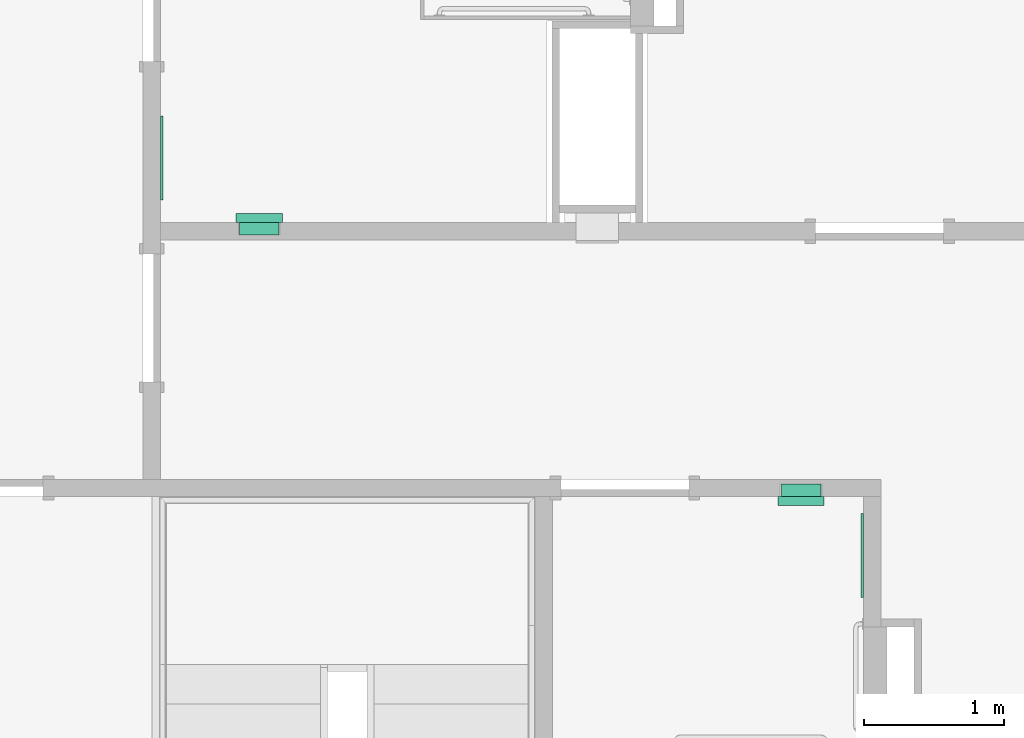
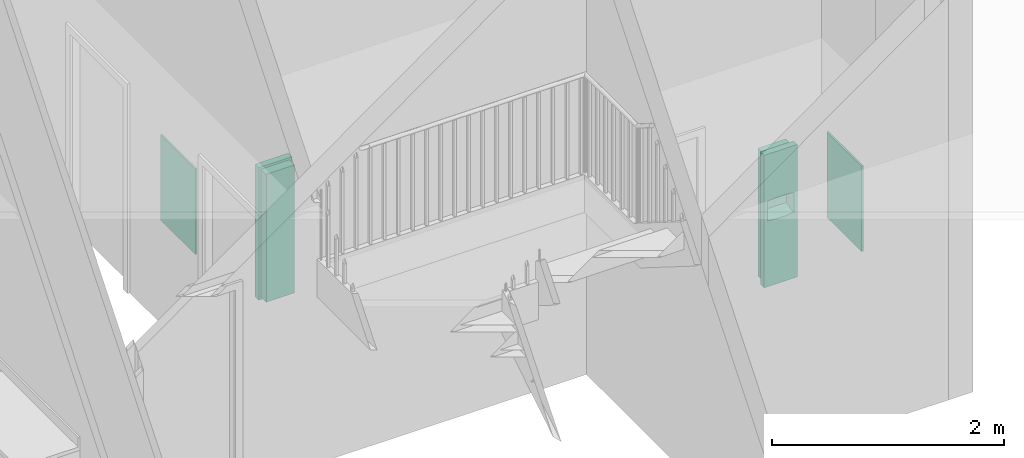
# One storey, part 63 of 82: 4 flow terminals.
"""IFC2X3 building model written with IfcOpenShell, lengths in metres."""

from ifc_helpers import new_model, entity, si_unit, converted_unit, frame, origin, origin_2d_with_axis, place, context, project, spatial, rectangle, extrude, face_set, surface_model, source, transform, mapped, type_object, type_shapes, element, save


model = new_model("IFC2X3")

# Units and contexts
model_context = context("Model", 3, precision=1e-09, world=origin())
plan_context = context("Plan", 3, precision=1e-09, world=origin())
ifc_project = project(units=[si_unit("LENGTHUNIT", "METRE"), si_unit("AREAUNIT", "SQUARE_METRE"), si_unit("VOLUMEUNIT", "CUBIC_METRE"), converted_unit("PLANEANGLEUNIT", "DEGREE", entity("IfcRatioMeasure", 0.01745329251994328), si_unit("PLANEANGLEUNIT", "RADIAN"), dimensions=[0, 0, 0, 0, 0, 0, 0]), si_unit("TIMEUNIT", "SECOND")], contexts=[model_context, plan_context])

# Site, building, storey, space
site_placement = place(None, origin())
site = spatial("IfcSite", under=ifc_project, at=site_placement, Name="Default", CompositionType="ELEMENT")
building_placement = place(site_placement, origin())
building = spatial("IfcBuilding", under=site, at=building_placement, CompositionType="ELEMENT")
storey_placement = place(building_placement, origin())
storey = spatial("IfcBuildingStorey", under=building, at=storey_placement, Name="First Floor", CompositionType="ELEMENT", Elevation=-3.531500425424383e-13)
space_1_placement = place(storey_placement, origin())
space_1 = spatial("IfcSpace", under=storey, at=space_1_placement, Name="1A13", CompositionType="ELEMENT", InteriorOrExteriorSpace="INTERNAL")

# Flow terminal
sanitary_terminal_type_1 = type_object("IfcSanitaryTerminalType", Name="Semi-Recessed", PredefinedType="NOTDEFINED")
shared_shape_1 = source(origin(), model_context, "Body", "SurfaceModel", [
    surface_model("IfcFaceBasedSurfaceModel", [(0.3047999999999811, 1.371600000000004, 0.006350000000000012), (0.02539999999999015, 1.371600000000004, 0.006350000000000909), (0.02539999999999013, 0.02540000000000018, 0.006350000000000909), (0.3047999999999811, 0.02540000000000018, 0.006350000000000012), (0.3047999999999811, 1.371600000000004, 0.0), (0.02539999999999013, 1.371600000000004, 0.0), (0.02539999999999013, 0.02540000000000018, 0.0), (0.3047999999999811, 0.02540000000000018, 0.0), (0.3047999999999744, 0.8683625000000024, 0.0314087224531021), (0.304799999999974, 0.8683625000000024, 0.0), (0.304799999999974, 1.371600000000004, 0.0), (0.3047999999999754, 1.371600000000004, 0.1396999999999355), (0.3047999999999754, 0.9274310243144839, 0.139699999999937), (0.3047999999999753, 0.9028355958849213, 0.1191121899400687), (0.304799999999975, 0.8840898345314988, 0.09308548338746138), (0.3047999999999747, 0.8723562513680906, 0.06323391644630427), (0.02539999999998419, 0.8683625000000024, 0.03140872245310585), (0.02539999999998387, 0.8683625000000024, 0.0), (0.02539999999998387, 1.371600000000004, 0.0), (0.02539999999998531, 1.371600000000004, 0.1396999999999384), (0.02539999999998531, 0.9274310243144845, 0.1396999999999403), (0.02539999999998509, 0.9028355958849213, 0.1191121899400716), (0.02539999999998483, 0.8840898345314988, 0.09308548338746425), (0.02539999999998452, 0.8723562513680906, 0.06323391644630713), (0.1650999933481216, 0.8971245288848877, 0.1125374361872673), (0.244423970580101, 0.8850007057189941, 0.0947267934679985), (0.3048000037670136, 0.8934627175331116, 0.1060988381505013), (0.225727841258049, 0.8897196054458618, 0.1024402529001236), (0.1240624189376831, 0.8936511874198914, 0.1080563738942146), (0.1443802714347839, 0.89626145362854, 0.1114614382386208), (0.02539999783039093, 0.8934627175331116, 0.1060988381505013), (0.2975995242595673, 0.8728225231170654, 0.06500939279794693), (0.2961554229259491, 0.8724397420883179, 0.06352298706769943), (0.08576729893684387, 0.8849983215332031, 0.09472260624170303), (0.05923719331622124, 0.8781034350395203, 0.0805450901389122), (0.06810294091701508, 0.8800443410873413, 0.08500713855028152), (0.02539999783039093, 0.8811564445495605, 0.08562259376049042), (0.03954862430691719, 0.8766331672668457, 0.07681932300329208), (0.04958875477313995, 0.8769928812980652, 0.07776296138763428), (0.02539999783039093, 0.8782230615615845, 0.07815969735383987), (0.03264534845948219, 0.875198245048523, 0.07281118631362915), (0.02539999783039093, 0.8767563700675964, 0.0744282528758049), (0.02539999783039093, 0.87602299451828, 0.07256253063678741), (0.2946777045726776, 0.8762261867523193, 0.07572414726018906), (0.3048000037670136, 0.8767563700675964, 0.0744282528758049), (0.3048000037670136, 0.8774896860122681, 0.07629397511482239), (0.2906513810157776, 0.8717893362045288, 0.0609215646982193), (0.3048000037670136, 0.871357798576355, 0.05527761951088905), (0.3048000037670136, 0.8718570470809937, 0.05925576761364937), (0.02539999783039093, 0.874556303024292, 0.06883108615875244), (0.03170676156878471, 0.8735430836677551, 0.0675705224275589), (0.03171554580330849, 0.8739543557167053, 0.06892137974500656), (0.104461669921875, 0.889717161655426, 0.1024366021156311), (0.02539999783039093, 0.8752896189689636, 0.07069680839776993), (0.03172433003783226, 0.8743656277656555, 0.07027223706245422), (0.03218483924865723, 0.8747819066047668, 0.07154171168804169), (0.185808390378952, 0.8962624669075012, 0.1114626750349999), (0.3048000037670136, 0.8703593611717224, 0.04732131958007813), (0.2280749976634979, 0.8709259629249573, 0.05697767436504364), (0.2061262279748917, 0.8936530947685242, 0.1080589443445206), (0.3048000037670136, 0.8752896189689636, 0.07069680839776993), (0.297547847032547, 0.8752022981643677, 0.07282306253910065), (0.2980738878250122, 0.8745774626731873, 0.0708826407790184), (0.2985999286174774, 0.8739525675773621, 0.06894221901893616), (0.3048000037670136, 0.874556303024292, 0.06883108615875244), (0.2709419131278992, 0.8781068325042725, 0.08055329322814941), (0.3048000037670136, 0.8811564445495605, 0.08562259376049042), (0.2620970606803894, 0.8800443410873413, 0.08500713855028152), (0.2805894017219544, 0.8769944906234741, 0.07776710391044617), (0.3048000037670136, 0.8782230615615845, 0.07815969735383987), (0.03435983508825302, 0.8722586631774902, 0.06284872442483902), (0.02539999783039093, 0.872106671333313, 0.06124484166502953), (0.0367727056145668, 0.8719081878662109, 0.06142202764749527), (0.2906513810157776, 0.8766331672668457, 0.07681932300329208), (0.02539999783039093, 0.8718570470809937, 0.05925576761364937), (0.3048000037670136, 0.8738229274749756, 0.06696536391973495), (0.2980997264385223, 0.8733875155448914, 0.06697580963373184), (0.3048000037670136, 0.872106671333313, 0.06124484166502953), (0.2947112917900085, 0.8720570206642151, 0.06203658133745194), (0.02539999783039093, 0.8738229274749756, 0.06696536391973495), (0.3048000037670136, 0.873089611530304, 0.06509964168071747), (0.02539999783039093, 0.8774896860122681, 0.07629397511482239), (0.03438528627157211, 0.8759323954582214, 0.07491400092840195), (0.03677724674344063, 0.8764464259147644, 0.07632055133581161), (0.03261014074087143, 0.8728178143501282, 0.0649920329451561), (0.02539999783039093, 0.8703593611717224, 0.04732131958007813), (0.1650999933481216, 0.8683624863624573, 0.03140872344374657), (0.03954862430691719, 0.8717893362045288, 0.0609215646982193), (0.1021250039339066, 0.8709259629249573, 0.05697767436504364), (0.02539999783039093, 0.871357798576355, 0.05527761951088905), (0.02539999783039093, 0.873089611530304, 0.06509964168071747), (0.2961127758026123, 0.8757142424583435, 0.07427360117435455), (0.3048000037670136, 0.87602299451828, 0.07256253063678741), (0.1650999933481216, 0.8701865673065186, 0.05300865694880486), (0.03954862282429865, 0.9617593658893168, 0.06092156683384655), (0.1650999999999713, 0.9617593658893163, 0.05300865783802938), (0.2906513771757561, 0.9617593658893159, 0.06092156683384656), (0.2927086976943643, 0.9617593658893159, 0.06119241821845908), (0.2946258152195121, 0.9617593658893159, 0.06198651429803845), (0.2962720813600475, 0.9617593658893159, 0.06324973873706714), (0.2975353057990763, 0.9617593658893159, 0.06489600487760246), (0.2983294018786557, 0.9617593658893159, 0.06681312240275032), (0.2986002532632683, 0.9617593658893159, 0.06887044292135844), (0.2983294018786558, 0.9617593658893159, 0.07092776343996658), (0.2975353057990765, 0.9617593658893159, 0.0728448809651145), (0.2962720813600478, 0.9617593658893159, 0.07449114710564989), (0.2946258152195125, 0.9617593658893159, 0.07575437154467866), (0.2927086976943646, 0.9617593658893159, 0.07654846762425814), (0.2906513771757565, 0.9617593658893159, 0.07681931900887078), (0.2806776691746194, 0.9617593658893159, 0.07775040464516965), (0.2710486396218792, 0.9617593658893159, 0.0805114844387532), (0.2620970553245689, 0.9617593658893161, 0.0850071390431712), (0.2316919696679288, 0.9617593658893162, 0.1002429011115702), (0.1989754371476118, 0.9617593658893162, 0.1095287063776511), (0.1651000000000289, 0.9617593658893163, 0.1125374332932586), (0.1312245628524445, 0.9617593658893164, 0.109528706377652), (0.09850803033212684, 0.9617593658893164, 0.1002429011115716), (0.06810294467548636, 0.9617593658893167, 0.08500713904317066), (0.05915136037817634, 0.9617593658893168, 0.08051148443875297), (0.04952233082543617, 0.9617593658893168, 0.07775040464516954), (0.03954862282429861, 0.9617593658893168, 0.07681931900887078), (0.03749130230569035, 0.9617593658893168, 0.0765484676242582), (0.03557418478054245, 0.9617593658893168, 0.07575437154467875), (0.03392791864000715, 0.9617593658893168, 0.07449114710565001), (0.03266469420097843, 0.9617593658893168, 0.07284488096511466), (0.03187059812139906, 0.9617593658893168, 0.07092776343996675), (0.03159974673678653, 0.9617593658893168, 0.06887044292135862), (0.03187059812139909, 0.9617593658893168, 0.06681312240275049), (0.03266469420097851, 0.9617593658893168, 0.0648960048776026), (0.03392791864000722, 0.9617593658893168, 0.06324973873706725), (0.03557418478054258, 0.9617593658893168, 0.06198651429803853), (0.03749130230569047, 0.9617593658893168, 0.06119241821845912), (0.3302000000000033, 1.397000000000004, 0.1523999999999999), (0.0, 1.397000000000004, 0.152400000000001), (0.0, 0.0, 0.152400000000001), (0.3302000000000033, 0.0, 0.1523999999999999), (0.03175000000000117, 0.7016793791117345, 0.1524000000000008), (0.03175000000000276, 0.8960819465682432, 0.1524000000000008), (0.03192255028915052, 0.8975521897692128, 0.1524000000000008), (0.03243082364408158, 0.8989425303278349, 0.1524000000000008), (0.03324719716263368, 0.9001774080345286, 0.1524000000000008), (0.03432730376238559, 0.9011897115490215, 0.1524000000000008), (0.03561244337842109, 0.9019244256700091, 0.1524000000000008), (0.03703277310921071, 0.9023416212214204, 0.1524000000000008), (0.1222300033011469, 0.9119737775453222, 0.1524000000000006), (0.2079699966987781, 0.911973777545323, 0.1524000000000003), (0.2931672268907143, 0.902341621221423, 0.1524), (0.2945875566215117, 0.9019244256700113, 0.1524), (0.2958726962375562, 0.9011897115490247, 0.1524), (0.2969528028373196, 0.9001774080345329, 0.1524), (0.297769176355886, 0.8989425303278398, 0.1524), (0.2982774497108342, 0.8975521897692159, 0.1524), (0.2984500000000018, 0.8960819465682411, 0.1524), (0.2984500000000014, 0.7016793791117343, 0.1524), (0.2982774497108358, 0.7002091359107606, 0.1524), (0.2977691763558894, 0.6988187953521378, 0.1524), (0.2969528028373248, 0.697583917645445, 0.1524), (0.2958726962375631, 0.6965716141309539, 0.1524), (0.29458755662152, 0.6958369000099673, 0.1524), (0.2931672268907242, 0.6954197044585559, 0.1524), (0.2079699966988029, 0.6857875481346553, 0.1524000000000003), (0.1222300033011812, 0.6857875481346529, 0.1524000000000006), (0.03703277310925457, 0.6954197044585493, 0.1524000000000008), (0.03561244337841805, 0.6958369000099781, 0.1524000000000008), (0.0343273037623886, 0.6965716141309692, 0.1524000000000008), (0.03324719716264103, 0.6975839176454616, 0.1524000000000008), (0.03243082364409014, 0.698818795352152, 0.1524000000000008), (0.03192255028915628, 0.7002091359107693, 0.1524000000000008), (0.3063874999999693, 1.373187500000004, 0.0), (0.02381249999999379, 1.373187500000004, 0.0), (0.02381249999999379, 0.02381250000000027, 0.0), (0.3063874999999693, 0.02381250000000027, 0.0), (0.3047999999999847, 1.371600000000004, 0.0), (0.3047999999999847, 0.02540000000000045, 0.0), (0.02539999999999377, 0.02540000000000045, 0.0), (0.02539999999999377, 1.371600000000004, 0.0), (0.304799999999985, 1.371600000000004, 0.08889999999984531), (0.3047999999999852, 1.371600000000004, 0.1396999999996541), (0.3047999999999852, 0.02540000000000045, 0.1396999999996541), (0.304799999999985, 0.02540000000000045, 0.08889999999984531), (0.02539999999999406, 0.02540000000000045, 0.08889999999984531), (0.02539999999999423, 0.02540000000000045, 0.139699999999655), (0.02539999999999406, 1.371600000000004, 0.08889999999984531), (0.02539999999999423, 1.371600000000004, 0.139699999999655), (0.02381249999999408, 1.373187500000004, 0.08889999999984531), (0.3063874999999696, 1.373187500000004, 0.08889999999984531), (0.02381249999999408, 0.02381250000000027, 0.08889999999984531), (0.3063874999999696, 0.02381250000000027, 0.08889999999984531), (0.3302000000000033, 1.397000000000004, 0.08889999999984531), (0.0, 1.397000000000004, 0.08889999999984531), (0.0, 0.0, 0.08889999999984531), (0.3302000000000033, 0.0, 0.08889999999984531), (0.3302000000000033, 1.397000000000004, 0.1396999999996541), (0.0, 1.397000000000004, 0.1396999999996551), (0.0, 0.0, 0.1396999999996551), (0.3302000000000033, 0.0, 0.1396999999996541), (0.0317500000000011, 0.7016793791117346, 0.139699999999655), (0.03175000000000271, 0.8960819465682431, 0.139699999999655), (0.03192255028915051, 0.8975521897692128, 0.139699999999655), (0.03243082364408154, 0.8989425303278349, 0.139699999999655), (0.03324719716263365, 0.9001774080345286, 0.139699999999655), (0.03432730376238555, 0.9011897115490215, 0.139699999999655), (0.03561244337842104, 0.9019244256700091, 0.139699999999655), (0.03703277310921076, 0.9023416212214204, 0.139699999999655), (0.1222300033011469, 0.9119737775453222, 0.1396999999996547), (0.207969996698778, 0.911973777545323, 0.1396999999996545), (0.2931672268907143, 0.902341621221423, 0.1396999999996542), (0.2945875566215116, 0.9019244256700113, 0.1396999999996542), (0.2958726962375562, 0.9011897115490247, 0.1396999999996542), (0.2969528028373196, 0.9001774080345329, 0.1396999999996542), (0.2977691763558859, 0.8989425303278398, 0.1396999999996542), (0.2982774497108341, 0.8975521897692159, 0.1396999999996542), (0.2984500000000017, 0.8960819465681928, 0.1396999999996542), (0.2984500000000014, 0.7016793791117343, 0.1396999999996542), (0.2982774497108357, 0.7002091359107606, 0.1396999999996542), (0.2977691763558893, 0.6988187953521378, 0.1396999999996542), (0.2969528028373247, 0.697583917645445, 0.1396999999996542), (0.295872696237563, 0.6965716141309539, 0.1396999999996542), (0.29458755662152, 0.6958369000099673, 0.1396999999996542), (0.2931672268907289, 0.6954197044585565, 0.1396999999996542), (0.2079699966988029, 0.6857875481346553, 0.1396999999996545), (0.1222300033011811, 0.6857875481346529, 0.1396999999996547), (0.0370327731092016, 0.6954197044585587, 0.139699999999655), (0.03561244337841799, 0.6958369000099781, 0.139699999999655), (0.03432730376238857, 0.6965716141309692, 0.139699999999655), (0.03324719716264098, 0.6975839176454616, 0.139699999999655), (0.03243082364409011, 0.698818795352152, 0.139699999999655), (0.03192255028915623, 0.7002091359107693, 0.139699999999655), (0.02698749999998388, 0.6774923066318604, 0.1206361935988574), (0.02698749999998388, 0.6858000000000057, 0.1206361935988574), (0.02698749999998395, 0.6858000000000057, 0.1397000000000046), (0.02698749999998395, 0.0253999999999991, 0.1397000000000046), (0.02698749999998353, 0.0253999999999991, 0.007937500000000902), (0.02698749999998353, 0.7076898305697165, 0.007937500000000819), (0.3032124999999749, 0.6774923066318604, 0.1206361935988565), (0.3032124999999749, 0.6858000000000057, 0.1206361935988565), (0.3032124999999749, 0.6858000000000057, 0.1397000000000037), (0.3032124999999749, 0.0253999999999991, 0.1397000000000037), (0.3032124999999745, 0.0253999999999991, 0.007937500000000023), (0.3032124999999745, 0.7076898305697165, 0.007937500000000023)], [face_set([[[0, 1, 2, 3]], [[4, 5, 6, 7]], [[1, 0, 4, 5]], [[2, 6, 5, 1]], [[3, 7, 6, 2]], [[0, 3, 7, 4]]]), face_set([[[8, 9, 10, 11, 12, 13, 14, 15]], [[16, 17, 18, 19, 20, 21, 22, 23]], [[9, 8, 16, 17]], [[10, 18, 17, 9]], [[11, 19, 18, 10]], [[12, 11, 19, 20]], [[24, 20, 21]], [[25, 26, 27]], [[28, 29, 21]], [[28, 21, 30]], [[15, 31, 32]], [[22, 33, 30]], [[24, 21, 29]], [[34, 35, 36]], [[37, 38, 39]], [[40, 41, 42]], [[39, 38, 34]], [[22, 35, 33]], [[39, 34, 36]], [[43, 44, 45]], [[46, 47, 48]], [[49, 50, 51]], [[33, 52, 30]], [[53, 54, 55]], [[24, 56, 13]], [[57, 47, 58]], [[24, 13, 12]], [[13, 56, 59]], [[59, 27, 26]], [[60, 61, 62]], [[62, 63, 64]], [[24, 12, 20]], [[55, 42, 53]], [[65, 66, 67]], [[25, 67, 14]], [[25, 14, 26]], [[65, 68, 69]], [[66, 65, 69]], [[70, 71, 72]], [[69, 68, 73]], [[72, 71, 74]], [[26, 13, 59]], [[54, 53, 49]], [[64, 60, 62]], [[75, 63, 76]], [[46, 77, 78]], [[79, 50, 49]], [[80, 76, 31]], [[39, 81, 37]], [[41, 82, 81]], [[49, 51, 54]], [[81, 82, 83]], [[40, 82, 41]], [[70, 84, 23]], [[84, 50, 79]], [[85, 16, 86]], [[28, 30, 52]], [[70, 23, 71]], [[87, 72, 74]], [[85, 88, 89]], [[87, 89, 88]], [[74, 89, 87]], [[84, 90, 23]], [[58, 47, 46]], [[35, 22, 36]], [[63, 75, 64]], [[91, 61, 92]], [[45, 73, 43]], [[80, 75, 76]], [[61, 60, 92]], [[15, 32, 78]], [[45, 69, 73]], [[92, 44, 91]], [[66, 14, 67]], [[84, 79, 90]], [[85, 93, 88]], [[86, 57, 93]], [[31, 15, 80]], [[77, 15, 78]], [[42, 55, 40]], [[58, 93, 57]], [[77, 46, 48]], [[8, 57, 86]], [[37, 81, 83]], [[44, 43, 91]], [[85, 86, 93]], [[94, 95, 96, 97, 98, 99, 100, 101, 102, 103, 104, 105, 106, 107, 108, 109, 110, 111, 112, 113, 114, 115, 116, 117, 118, 119, 120, 121, 122, 123, 124, 125, 126, 127, 128, 129, 130, 131]], [[95, 94, 87, 88, 93]], [[96, 95, 93, 58, 46]], [[46, 96, 97]], [[78, 98, 99]], [[97, 98, 78]], [[99, 100, 31]], [[46, 97, 78]], [[63, 31, 101]], [[31, 78, 99]], [[63, 101, 102]], [[101, 31, 100]], [[61, 104, 105]], [[43, 106, 107]], [[105, 106, 43]], [[73, 107, 108]], [[63, 103, 61]], [[103, 63, 102]], [[61, 103, 104]], [[61, 105, 43]], [[107, 73, 43]], [[108, 68, 73]], [[68, 108, 109]], [[109, 65, 68]], [[110, 67, 65]], [[67, 110, 111]], [[109, 110, 65]], [[111, 112, 25]], [[25, 67, 111]], [[27, 25, 112]], [[112, 59, 27]], [[113, 114, 56]], [[56, 59, 113]], [[24, 56, 114]], [[113, 59, 112]], [[114, 115, 29]], [[29, 24, 114]], [[28, 29, 115]], [[115, 116, 28]], [[116, 117, 33]], [[33, 52, 116]], [[35, 33, 117]], [[116, 52, 28]], [[118, 34, 35]], [[35, 117, 118]], [[118, 119, 34]], [[120, 37, 38]], [[38, 119, 120]], [[34, 119, 38]], [[37, 120, 121]], [[82, 122, 123]], [[121, 122, 83]], [[123, 124, 40]], [[37, 121, 83]], [[83, 122, 82]], [[40, 125, 54]], [[40, 82, 123]], [[54, 125, 126]], [[40, 124, 125]], [[84, 127, 128]], [[129, 84, 128]], [[72, 130, 131]], [[129, 130, 70]], [[87, 131, 94]], [[127, 50, 126]], [[127, 84, 50]], [[126, 50, 54]], [[70, 84, 129]], [[130, 72, 70]], [[131, 87, 72]]]), face_set([[[132, 133, 134, 135], [136, 137, 138, 139, 140, 141, 142, 143, 144, 145, 146, 147, 148, 149, 150, 151, 152, 153, 154, 155, 156, 157, 158, 159, 160, 161, 162, 163, 164, 165, 166, 167]], [[168, 169, 170, 171], [172, 173, 174, 175]], [[172, 176, 177, 178, 179, 173]], [[173, 174, 180, 181, 178, 179]], [[174, 175, 182, 183, 181, 180]], [[175, 182, 183, 177, 176, 172]], [[168, 169, 184, 185]], [[169, 184, 186, 170]], [[170, 186, 187, 171]], [[171, 168, 185, 187]], [[188, 189, 190, 191], [185, 187, 186, 184]], [[133, 132, 192, 188, 189, 193]], [[134, 133, 193, 189, 190, 194]], [[135, 134, 194, 190, 191, 195]], [[132, 135, 195, 191, 188, 192]], [[177, 183, 181, 178], [196, 197, 198, 199, 200, 201, 202, 203, 204, 205, 206, 207, 208, 209, 210, 211, 212, 213, 214, 215, 216, 217, 218, 219, 220, 221, 222, 223, 224, 225, 226, 227]], [[137, 136, 196, 197]], [[198, 197, 137, 138]], [[199, 198, 138, 139]], [[139, 140, 200, 199]], [[202, 201, 141, 142]], [[203, 202, 142, 143]], [[140, 141, 201, 200]], [[203, 143, 144, 204]], [[145, 205, 204, 144]], [[205, 145, 146, 206]], [[207, 206, 146, 147]], [[208, 207, 147, 148]], [[148, 149, 209, 208]], [[212, 211, 151, 152]], [[211, 210, 150, 151]], [[149, 150, 210, 209]], [[153, 213, 212, 152]], [[214, 213, 153, 154]], [[215, 214, 154, 155]], [[155, 156, 216, 215]], [[218, 217, 157, 158]], [[219, 218, 158, 159]], [[156, 157, 217, 216]], [[219, 159, 160, 220]], [[161, 221, 220, 160]], [[221, 161, 162, 222]], [[223, 222, 162, 163]], [[224, 223, 163, 164]], [[164, 165, 225, 224]], [[227, 226, 166, 167]], [[196, 227, 167, 136]], [[165, 166, 226, 225]]]), face_set([[[228, 229, 230, 231, 232, 233]], [[234, 235, 236, 237, 238, 239]], [[233, 228, 234, 239]], [[232, 238, 239, 233]], [[231, 237, 238, 232]], [[230, 231, 237, 236]], [[229, 230, 236, 235]], [[228, 234, 235, 229]]])]),
])
type_shapes(sanitary_terminal_type_1, [shared_shape_1])
flow_terminal_1_placement = place(space_1_placement, frame((-13.5842000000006, 42.24490069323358, 0.3428999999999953), z_axis=(0.0, -1.0, 0.0), x_axis=(1.0, 0.0, 0.0)))
element("IfcFlowTerminal", 1, at=flow_terminal_1_placement, inside=space_1, type_object=sanitary_terminal_type_1, Name="M_Towel Dispensers - receptical:Semi-Recessed:Semi-Recessed", ObjectType="Semi-Recessed", context=model_context, shape_type="MappedRepresentation", body=[
    mapped(shared_shape_1, transform((0.0, 0.0, 0.0), scale=1.0)),
])

# Space
space_2_placement = place(storey_placement, origin())
space_2 = spatial("IfcSpace", under=storey, at=space_2_placement, Name="1A12", CompositionType="ELEMENT", InteriorOrExteriorSpace="INTERNAL")

# Flow terminals
flow_terminal_2_placement = place(space_2_placement, frame((-17.12580000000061, 44.02509999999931, 0.3428999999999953), z_axis=(0.0, 1.0, 0.0), x_axis=(-1.0, 0.0, 0.0)))
element("IfcFlowTerminal", 2, at=flow_terminal_2_placement, inside=space_2, type_object=sanitary_terminal_type_1, Name="M_Towel Dispensers - receptical:Semi-Recessed:Semi-Recessed", ObjectType="Semi-Recessed", context=model_context, shape_type="MappedRepresentation", body=[
    mapped(shared_shape_1, transform((0.0, 0.0, 0.0), scale=1.0)),
])
sanitary_terminal_type_2 = type_object("IfcSanitaryTerminalType", Name="Mirror 600mm x 900mm", PredefinedType="NOTDEFINED")
shared_shape_2 = source(origin(), model_context, "Body", "SweptSolid", [
    extrude(rectangle(XDim=0.01905, YDim=0.5999999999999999, at=origin_2d_with_axis()), frame((0.02447030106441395, 0.071525, 1.0), z_axis=(0.0, 0.0, 1.0), x_axis=(0.0, -1.0, 0.0)), (0.0, 0.0, 1.0), 0.8999999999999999),
])
type_shapes(sanitary_terminal_type_2, [shared_shape_2])
flow_terminal_3_placement = place(space_2_placement, frame((-18.0580000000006, 44.59847030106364, -0.08500000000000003), z_axis=(0.0, 0.0, 1.0), x_axis=(0.0, -1.0, 0.0)))
element("IfcFlowTerminal", 3, at=flow_terminal_3_placement, inside=space_2, type_object=sanitary_terminal_type_2, Name="M_Mirror:Mirror 600mm x 900mm:Mirror 600mm x 900mm", ObjectType="Mirror 600mm x 900mm", context=model_context, shape_type="MappedRepresentation", body=[
    mapped(shared_shape_2, transform((0.0, 0.0, 0.0), scale=1.0)),
])
flow_terminal_4_placement = place(space_1_placement, frame((-12.91200000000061, 41.71153039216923, -0.08500000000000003), z_axis=(0.0, 0.0, 1.0), x_axis=(0.0, 1.0, 0.0)))
element("IfcFlowTerminal", 4, at=flow_terminal_4_placement, inside=space_1, type_object=sanitary_terminal_type_2, Name="M_Mirror:Mirror 600mm x 900mm:Mirror 600mm x 900mm", ObjectType="Mirror 600mm x 900mm", context=model_context, shape_type="MappedRepresentation", body=[
    mapped(shared_shape_2, transform((0.0, 0.0, 0.0), scale=1.0)),
])

save(model, "model.ifc")
